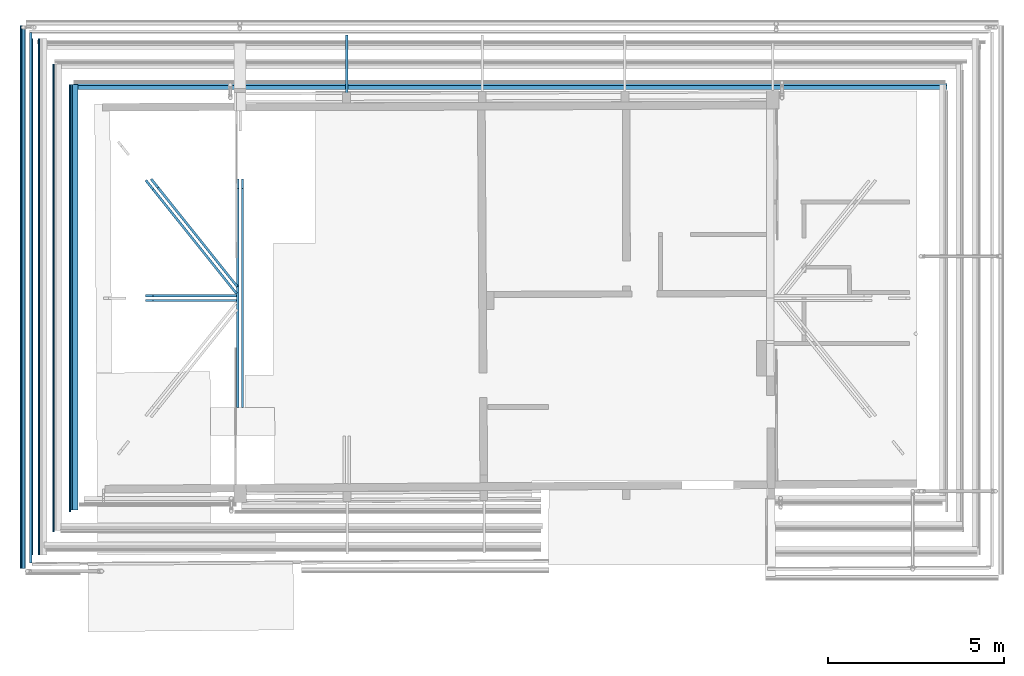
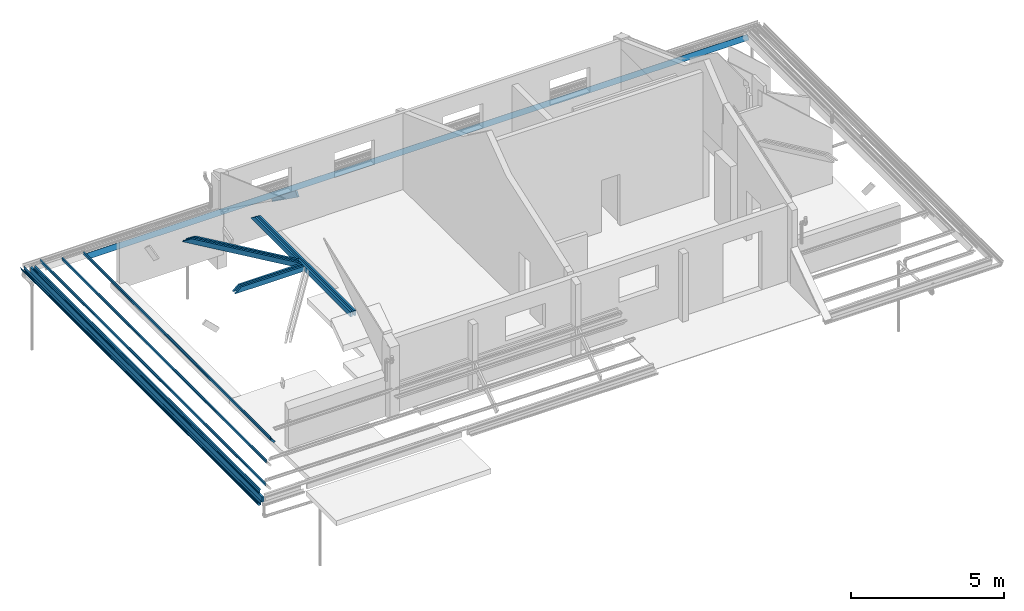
# One storey, part 3 of 15: 15 beams.
"""IFC2X3 building model written with IfcOpenShell, lengths in centimetres."""

import ifcopenshell
import ifcopenshell.guid

model = None  # the IFC model being written
_history = None  # IfcOwnerHistory: only IFC2X3 demands one
_inside = {}  # id of a spatial element -> (the spatial element, [elements in it])
_under = {}  # id of a project, library or spatial element -> (it, [spatial elements below it])
_declared = {}  # id of a project -> (the project, [libraries it declares])
_typed = {}  # id of a type object -> (the type object, [elements of that type])
_made_of = {}  # id of a material, layer set ... -> (it, [elements and type objects made of it])


def new_model(schema):
    """Start an empty IFC model of exactly this schema.

    Asked for "IFC4X3", IfcOpenShell would pick the latest addendum, in which some entities
    have other attributes; the version numbers below select the first issue.
    IFC2X3 requires an IfcOwnerHistory on every rooted entity: one is made here for all.
    """
    global model, _history
    if schema == "IFC4X3":
        model = ifcopenshell.file(schema_version=(4, 3, 0, 0))
    else:
        model = ifcopenshell.file(schema=schema)
    _inside.clear()
    _under.clear()
    _declared.clear()
    _typed.clear()
    _made_of.clear()
    _history = None
    if model.schema == "IFC2X3":
        org = make("IfcOrganization", Name="unknown")
        user = make(
            "IfcPersonAndOrganization",
            ThePerson=make("IfcPerson", FamilyName="unknown"),
            TheOrganization=org,
        )
        app = make(
            "IfcApplication",
            ApplicationDeveloper=org,
            Version="unknown",
            ApplicationFullName="unknown",
            ApplicationIdentifier="unknown",
        )
        _history = make(
            "IfcOwnerHistory",
            OwningUser=user,
            OwningApplication=app,
            ChangeAction="ADDED",
            CreationDate=0,
        )
    return model


def make(cls, **values):
    """One entity of the class cls with the attributes given. An attribute that is None is left unset."""
    return model.create_entity(
        cls, **{name: value for name, value in values.items() if value is not None}
    )


def entity(cls, *values):
    """Any entity or typed value of the class cls, its attributes in the order of the schema. None: left unset."""
    e = model.create_entity(cls)
    for i, value in enumerate(values):
        if value is not None:
            e[i] = value
    return e


def rooted(cls, **values):
    """An entity with a GlobalId (a new one), such as an element, a storey or a relation."""
    return make(cls, GlobalId=ifcopenshell.guid.new(), OwnerHistory=_history, **values)


def si_unit(unit_type, name, prefix=None):
    """IfcSIUnit, for example si_unit("LENGTHUNIT", "METRE", prefix="MILLI")."""
    return make("IfcSIUnit", UnitType=unit_type, Prefix=prefix, Name=name)


def converted_unit(unit_type, name, factor, base, dimensions=None, offset=None):
    """IfcConversionBasedUnit, such as the inch: factor (a typed value) times the base unit."""
    return make(
        "IfcConversionBasedUnit"
        if offset is None
        else "IfcConversionBasedUnitWithOffset",
        ConversionOffset=offset,
        Dimensions=None
        if dimensions is None
        else entity("IfcDimensionalExponents", *dimensions),
        UnitType=unit_type,
        Name=name,
        ConversionFactor=make(
            "IfcMeasureWithUnit", ValueComponent=factor, UnitComponent=base
        ),
    )


def assignment(units):
    """IfcUnitAssignment: the units of a project."""
    return None if units is None else make("IfcUnitAssignment", Units=units)


def point(xyz):
    """IfcCartesianPoint."""
    return None if xyz is None else make("IfcCartesianPoint", Coordinates=xyz)


def direction(xyz):
    """IfcDirection."""
    return None if xyz is None else make("IfcDirection", DirectionRatios=xyz)


def frame(location, z_axis=None, x_axis=None):
    """IfcAxis2Placement3D, a coordinate frame: its origin and axes. An axis left out is left unset."""
    return make(
        "IfcAxis2Placement3D",
        Location=point(location),
        Axis=direction(z_axis),
        RefDirection=direction(x_axis),
    )


def frame_2d(location, x_axis=None):
    """IfcAxis2Placement2D, a coordinate frame in the plane: its origin and x axis."""
    return make(
        "IfcAxis2Placement2D", Location=point(location), RefDirection=direction(x_axis)
    )


def origin():
    """The frame at (0, 0, 0) with its axes left unset."""
    return frame((0.0, 0.0, 0.0))


def origin_2d_with_axis():
    """The frame at (0, 0) in the plane with the x axis (1, 0) written out."""
    return frame_2d((0.0, 0.0), x_axis=(1.0, 0.0))


def place(relative_to, where):
    """IfcLocalPlacement: puts the frame where relative to a parent placement (None: the world)."""
    return make(
        "IfcLocalPlacement", PlacementRelTo=relative_to, RelativePlacement=where
    )


def context(
    kind, dimensions, precision=None, world=None, true_north=None, identifier=None
):
    """IfcGeometricRepresentationContext, for example the 3D "Model" context."""
    return make(
        "IfcGeometricRepresentationContext",
        ContextIdentifier=identifier,
        ContextType=kind,
        CoordinateSpaceDimension=dimensions,
        Precision=precision,
        WorldCoordinateSystem=world,
        TrueNorth=true_north,
    )


def subcontext(parent, identifier, kind, view, scale=None):
    """IfcGeometricRepresentationSubContext, for example "Body" below "Model"."""
    return make(
        "IfcGeometricRepresentationSubContext",
        ContextIdentifier=identifier,
        ContextType=kind,
        ParentContext=parent,
        TargetScale=scale,
        TargetView=view,
    )


def project(units=None, contexts=None):
    """IfcProject with its units and contexts."""
    return rooted(
        "IfcProject",
        Name="project",
        RepresentationContexts=contexts,
        UnitsInContext=assignment(units),
    )


def spatial(cls, under=None, at=None, **own):
    """A site, building, storey or space (cls), placed at a placement, below another one or the project."""
    s = rooted(cls, ObjectPlacement=at, **own)
    if under is not None:
        _under.setdefault(under.id(), (under, []))[1].append(s)
    return s


def polyline(points):
    """IfcPolyline through the points."""
    return make("IfcPolyline", Points=[point(p) for p in points])


def circle_curve(where, radius):
    """IfcCircle in the frame where."""
    return make("IfcCircle", Position=where, Radius=radius)


def parameter(value):
    """IfcParameterValue: where a trimmed curve begins or ends, as a parameter of its basis curve."""
    return model.create_entity("IfcParameterValue", value)


def trimmed(basis, trim1, trim2, sense, master):
    """IfcTrimmedCurve: the piece of a basis curve between two trims."""
    return make(
        "IfcTrimmedCurve",
        BasisCurve=basis,
        Trim1=trim1,
        Trim2=trim2,
        SenseAgreement=sense,
        MasterRepresentation=master,
    )


def segment(curve, same_sense, transition):
    """IfcCompositeCurveSegment."""
    return make(
        "IfcCompositeCurveSegment",
        Transition=transition,
        SameSense=same_sense,
        ParentCurve=curve,
    )


def composite_curve(segments, self_intersect=None):
    """IfcCompositeCurve: segments joined end to end."""
    return make("IfcCompositeCurve", Segments=segments, SelfIntersect=self_intersect)


def profile(cls, at=None, kind="AREA", **sizes):
    """A parametric profile (cls). Its sizes go by their IFC names, for example OverallWidth=200.0."""
    return make(cls, ProfileType=kind, Position=at, **sizes)


def rectangle(**sizes):
    """IfcRectangleProfileDef."""
    return profile("IfcRectangleProfileDef", **sizes)


def outline(outer, holes=None, kind="AREA"):
    """IfcArbitraryClosedProfileDef: a profile drawn as a closed curve; with holes, ...WithVoids."""
    if holes is None:
        return make("IfcArbitraryClosedProfileDef", ProfileType=kind, OuterCurve=outer)
    return make(
        "IfcArbitraryProfileDefWithVoids",
        ProfileType=kind,
        OuterCurve=outer,
        InnerCurves=holes,
    )


def extrude(swept, where, along, depth):
    """IfcExtrudedAreaSolid: the profile swept, set in the frame where, extruded along a direction by depth."""
    return make(
        "IfcExtrudedAreaSolid",
        SweptArea=swept,
        Position=where,
        ExtrudedDirection=direction(along),
        Depth=depth,
    )


def clip(a, b, op="DIFFERENCE"):
    """IfcBooleanClippingResult: the solid a cut by the half space b."""
    return make(
        "IfcBooleanClippingResult", Operator=op, FirstOperand=a, SecondOperand=b
    )


def halfspace(plane, agree):
    """IfcHalfSpaceSolid: all space on one side of the plane z = 0 of the frame plane."""
    return make(
        "IfcHalfSpaceSolid",
        BaseSurface=make("IfcPlane", Position=plane),
        AgreementFlag=agree,
    )


def shape(context_of_items, identifier, shape_type, items):
    """IfcShapeRepresentation: the items that make up one representation, for example the "Body"."""
    return make(
        "IfcShapeRepresentation",
        ContextOfItems=context_of_items,
        RepresentationIdentifier=identifier,
        RepresentationType=shape_type,
        Items=items,
    )


def material(Name=None, Category=None):
    """IfcMaterial."""
    return make("IfcMaterial", Name=Name, Category=Category)


def made_of(thing, what):
    """Note that an element or type object is made of a material, layer set ...; save() writes the relation."""
    if what is not None:
        _made_of.setdefault(what.id(), (what, []))[1].append(thing)
    return thing


def type_object(cls, material=None, **own):
    """A type object (cls), such as IfcWallType, which elements share."""
    return made_of(rooted(cls, **own), material)


def element(
    cls,
    number,
    at=None,
    inside=None,
    cuts=None,
    type_object=None,
    material=None,
    context=None,
    identifier="Body",
    shape_type=None,
    held_by="IfcProductDefinitionShape",
    body=None,
    shapes=None,
    **own,
):
    """One element of the class cls, such as IfcWall. Its Tag is "e" and its number.

    at: its placement. inside: the storey or other place that contains it. cuts: it is an
    opening in that element (IfcRelVoidsElement). A single representation is given by context,
    identifier, shape_type and body (its items); several are given by shapes. held_by: the class
    of the entity that holds the representations. save() writes the other relations.
    """
    e = rooted(cls, Tag="e%d" % number, ObjectPlacement=at, **own)
    if body is not None:
        shapes = [shape(context, identifier, shape_type, body)]
    if shapes is not None:
        e.Representation = make(held_by, Representations=shapes)
    if inside is not None:
        _inside.setdefault(inside.id(), (inside, []))[1].append(e)
    if cuts is not None:
        rooted(
            "IfcRelVoidsElement", RelatingBuildingElement=cuts, RelatedOpeningElement=e
        )
    if type_object is not None:
        _typed.setdefault(type_object.id(), (type_object, []))[1].append(e)
    return made_of(e, material)


def aggregate(whole, parts):
    """IfcRelAggregates: a whole, such as a stair, and the parts it consists of."""
    return rooted("IfcRelAggregates", RelatingObject=whole, RelatedObjects=parts)


def save(model, path):
    """Write the relations noted so far, then the file.

    IfcRelAggregates (storeys below a building ...), IfcRelContainedInSpatialStructure (elements
    in a storey), IfcRelDefinesByType, IfcRelAssociatesMaterial and IfcRelDeclares: one each for
    every whole, place, type object, material and project.
    """
    for whole, parts in _under.values():
        aggregate(whole, parts)
    for where, things in _inside.values():
        rooted(
            "IfcRelContainedInSpatialStructure",
            RelatedElements=things,
            RelatingStructure=where,
        )
    for kind, things in _typed.values():
        rooted("IfcRelDefinesByType", RelatedObjects=things, RelatingType=kind)
    for what, things in _made_of.values():
        rooted("IfcRelAssociatesMaterial", RelatedObjects=things, RelatingMaterial=what)
    for by, libraries in _declared.values():
        rooted("IfcRelDeclares", RelatingContext=by, RelatedDefinitions=libraries)
    model.write(path)


model = new_model("IFC2X3")

# Units and contexts
model_context = context("Model", 3, precision=0.001, world=frame((0.0, 0.0, 13090.0)), true_north=direction((6.123233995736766e-17, 1.0)))
body_context = subcontext(model_context, "Body", "Model", "MODEL_VIEW")
ifc_project = project(units=[si_unit("LENGTHUNIT", "METRE", prefix="CENTI"), si_unit("AREAUNIT", "SQUARE_METRE"), si_unit("VOLUMEUNIT", "CUBIC_METRE"), converted_unit("PLANEANGLEUNIT", "DEGREE", entity("IfcPlaneAngleMeasure", 0.017453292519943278), si_unit("PLANEANGLEUNIT", "RADIAN"), dimensions=[0, 0, 0, 0, 0, 0, 0])], contexts=[model_context])

# Site, building, storey
site_placement = place(None, origin())
site = spatial("IfcSite", under=ifc_project, at=site_placement, Name="Default", CompositionType="ELEMENT")
building_placement = place(site_placement, origin())
building = spatial("IfcBuilding", under=site, at=building_placement, Name="e 39 logements et 22 maisons relais", CompositionType="ELEMENT")
storey_placement = place(building_placement, frame((0.0, 0.0, 340.0)))
storey = spatial("IfcBuildingStorey", under=building, at=storey_placement, Name="R+1", CompositionType="ELEMENT", Elevation=339.99999999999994)

# Beams
ifc_material_1 = material(Name="Bois - Bois de construction de dimensions courantes")
beam_type_1 = type_object("IfcBeamType", Name="Poutre - Bois de construction de dimensions courantes:70 220", PredefinedType="BEAM")
beam_1_placement = place(storey_placement, frame((-1391.5363790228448, 514.0076677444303, 101.09909632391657), z_axis=(0.0, 0.0, 1.0), x_axis=(0.0, -1.0, 0.0)))
element("IfcBeam", 1, at=beam_1_placement, inside=storey, type_object=beam_type_1, material=ifc_material_1, Name="Poutre - Bois de construction de dimensions courantes:70 220", ObjectType="Poutre - Bois de construction de dimensions courantes:70 220", context=body_context, shape_type="SweptSolid", body=[
    extrude(rectangle(XDim=21.99999999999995, YDim=7.000000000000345, at=frame_2d((-2.042810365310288e-14, 1.8207657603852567e-14), x_axis=(1.0, 0.0))), frame((-70.66046009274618, 7.360436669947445, -8.174593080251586), z_axis=(1.0, 0.0, 0.0), x_axis=(0.0, -0.6691306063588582, 0.7431448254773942)), (0.0, 0.0, 1.0), 1211.2816358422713),
])
beam_2_placement = place(storey_placement, frame((-1508.2353896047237, 514.0076677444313, 16.985725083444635), z_axis=(0.0, 0.0, 1.0), x_axis=(0.0, -1.0, 0.0)))
element("IfcBeam", 2, at=beam_2_placement, inside=storey, type_object=beam_type_1, material=ifc_material_1, Name="Poutre - Bois de construction de dimensions courantes:70 220", ObjectType="Poutre - Bois de construction de dimensions courantes:70 220", context=body_context, shape_type="SweptSolid", body=[
    extrude(rectangle(XDim=21.99999999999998, YDim=7.000000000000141, at=origin_2d_with_axis()), frame((-218.6176065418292, 0.0, -23.0), z_axis=(1.0, 0.0, 0.0), x_axis=(0.0, 0.0, -1.0)), (0.0, 0.0, 1.0), 1509.8727410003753),
])
beam_3_placement = place(storey_placement, frame((-609.2819705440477, 773.585191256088, 29.76606766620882), z_axis=(0.0, 0.5804591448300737, 0.8142893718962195), x_axis=(0.0, -0.8142893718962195, 0.5804591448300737)))
element("IfcBeam", 3, at=beam_3_placement, inside=storey, type_object=beam_type_1, material=ifc_material_1, Name="Poutre - Bois de construction de dimensions courantes:70 220", ObjectType="Poutre - Bois de construction de dimensions courantes:70 220", context=body_context, shape_type="SweptSolid", body=[
    extrude(rectangle(XDim=22.00000000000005, YDim=7.000000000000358, at=frame_2d((-2.3092638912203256e-14, -5.417888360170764e-14), x_axis=(1.0, 0.0))), frame((10.090585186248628, 0.0, -80.0), z_axis=(1.0, 0.0, 0.0), x_axis=(0.0, 0.0, -1.0)), (0.0, 0.0, 1.0), 201.65636044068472),
])
beam_type_2 = type_object("IfcBeamType", Name="Poutre - Bois de construction de dimensions courantes:70 200", PredefinedType="BEAM")
beam_4_placement = place(storey_placement, frame((-905.529474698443, 77.11354386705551, 266.32572503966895), z_axis=(0.0, 0.0, 1.0), x_axis=(0.0, 1.0, 0.0)))
element("IfcBeam", 4, at=beam_4_placement, inside=storey, type_object=beam_type_2, material=ifc_material_1, Name="Poutre - Bois de construction de dimensions courantes:70 200", ObjectType="Poutre - Bois de construction de dimensions courantes:70 200", context=body_context, shape_type="Clipping", body=[
    clip(extrude(rectangle(XDim=20.000000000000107, YDim=7.000000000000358, at=frame_2d((-1.0835776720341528e-13, -1.0835776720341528e-13), x_axis=(1.0, 0.0))), frame((-411.24384908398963, 0.0, -10.0), z_axis=(1.0, 0.0, 0.0), x_axis=(0.0, 0.0, -1.0)), (0.0, 0.0, 1.0), 650.4319269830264), halfspace(frame((149.0404736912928, -723.1623529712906, 44.36816788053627), z_axis=(0.5811008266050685, 0.0, 0.813831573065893), x_axis=(0.0, 1.0, 0.0)), False)),
])
beam_5_placement = place(storey_placement, frame((-919.5294746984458, 77.11354386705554, 266.32572503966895), z_axis=(0.0, 0.0, 1.0), x_axis=(0.0, 1.0, 0.0)))
element("IfcBeam", 5, at=beam_5_placement, inside=storey, type_object=beam_type_2, material=ifc_material_1, Name="Poutre - Bois de construction de dimensions courantes:70 200", ObjectType="Poutre - Bois de construction de dimensions courantes:70 200", context=body_context, shape_type="Clipping", body=[
    clip(extrude(rectangle(XDim=20.00000000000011, YDim=7.000000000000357, at=frame_2d((0.0, 1.0835776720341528e-13), x_axis=(1.0, 0.0))), frame((-411.2438490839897, 0.0, -10.0), z_axis=(1.0, 0.0, 0.0), x_axis=(0.0, 0.0, -1.0)), (0.0, 0.0, 1.0), 650.4319269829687), halfspace(frame((149.0404736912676, -723.1623529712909, 44.368167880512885), z_axis=(0.5811008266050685, 0.0, 0.8138315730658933), x_axis=(0.0, 1.0, 0.0)), False)),
])
beam_6_placement = place(storey_placement, frame((-1012.5409217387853, -15.897903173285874, 266.32572503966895), z_axis=(0.0, 0.0, 1.0), x_axis=(-1.0, 0.0, 0.0)))
element("IfcBeam", 6, at=beam_6_placement, inside=storey, type_object=beam_type_2, material=ifc_material_1, Name="Poutre - Bois de construction de dimensions courantes:70 200", ObjectType="Poutre - Bois de construction de dimensions courantes:70 200", context=body_context, shape_type="Clipping", body=[
    clip(extrude(rectangle(XDim=20.000000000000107, YDim=7.000000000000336, at=frame_2d((-1.0835776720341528e-13, -8.881784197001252e-16), x_axis=(1.0, 0.0))), frame((-89.5114470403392, 0.0, -10.0), z_axis=(1.0, 0.0, 0.0), x_axis=(0.0, 0.0, -1.0)), (0.0, 0.0, 1.0), 258.8899287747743), halfspace(frame((212.18040043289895, 311.0114470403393, -58.487575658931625), z_axis=(0.6686368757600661, 0.0, 0.7435890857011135), x_axis=(0.0, -1.0, 0.0)), False)),
])
beam_7_placement = place(storey_placement, frame((-1012.5409217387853, -29.89790317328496, 266.32572503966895), z_axis=(0.0, 0.0, 1.0), x_axis=(-1.0, 0.0, 0.0)))
element("IfcBeam", 7, at=beam_7_placement, inside=storey, type_object=beam_type_2, material=ifc_material_1, Name="Poutre - Bois de construction de dimensions courantes:70 200", ObjectType="Poutre - Bois de construction de dimensions courantes:70 200", context=body_context, shape_type="Clipping", body=[
    clip(extrude(rectangle(XDim=20.000000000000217, YDim=7.000000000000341, at=frame_2d((0.0, -1.7763568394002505e-15), x_axis=(1.0, 0.0))), frame((-89.51144704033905, 0.0, -10.0), z_axis=(1.0, 0.0, 0.0), x_axis=(0.0, 0.0, -1.0)), (0.0, 0.0, 1.0), 258.8899287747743), halfspace(frame((212.18040043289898, 311.0114470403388, -58.487575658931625), z_axis=(0.6686368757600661, 0.0, 0.7435890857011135), x_axis=(0.0, -1.0, 0.0)), False)),
])
beam_8_placement = place(storey_placement, frame((-972.4380074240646, 74.55343933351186, 266.32572503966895), z_axis=(0.0, 0.0, 1.0), x_axis=(-0.624840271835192, 0.780752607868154, 0.0)))
element("IfcBeam", 8, at=beam_8_placement, inside=storey, type_object=beam_type_2, material=ifc_material_1, Name="Poutre - Bois de construction de dimensions courantes:70 200", ObjectType="Poutre - Bois de construction de dimensions courantes:70 200", context=body_context, shape_type="Clipping", body=[
    clip(extrude(rectangle(XDim=20.0, YDim=7.000000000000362, at=frame_2d((-1.709743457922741e-14, 0.0), x_axis=(0.0, 1.0))), frame((-83.4925208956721, 0.0, -10.0), z_axis=(1.0, 0.0, 0.0), x_axis=(0.0, 1.0, 0.0)), (0.0, 0.0, 1.0), 392.55819188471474), halfspace(frame((221.0074781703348, -392.55819188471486, 31.60814003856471), z_axis=(0.4869245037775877, 0.0, 0.8734440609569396), x_axis=(0.0, 1.0, 0.0)), False)),
])
beam_9_placement = place(storey_placement, frame((-983.3685439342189, 65.80567552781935, 266.32572503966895), z_axis=(0.0, 0.0, 1.0), x_axis=(-0.6248402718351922, 0.7807526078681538, 0.0)))
element("IfcBeam", 9, at=beam_9_placement, inside=storey, type_object=beam_type_2, material=ifc_material_1, Name="Poutre - Bois de construction de dimensions courantes:70 200", ObjectType="Poutre - Bois de construction de dimensions courantes:70 200", context=body_context, shape_type="Clipping", body=[
    clip(extrude(rectangle(XDim=20.0, YDim=7.000000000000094, at=frame_2d((-1.1102230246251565e-15, 5.417888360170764e-14), x_axis=(0.0, 1.0))), frame((-97.31685809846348, 0.0, -10.0), z_axis=(1.0, 0.0, 0.0), x_axis=(0.0, 1.0, 0.0)), (0.0, 0.0, 1.0), 413.0179422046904), halfspace(frame((221.00747817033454, -413.0179422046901, 34.896910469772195), z_axis=(0.49070508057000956, 0.0, 0.8713257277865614), x_axis=(0.0, 1.0, 0.0)), False)),
])
beam_10_placement = place(storey_placement, frame((-570.9302602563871, 584.7263985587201, 105.5), z_axis=(-0.0005326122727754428, 0.0, 0.9999998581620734), x_axis=(-0.9999998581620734, 0.0, -0.0005326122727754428)))
element("IfcBeam", 10, at=beam_10_placement, inside=storey, type_object=beam_type_2, material=ifc_material_1, Name="Poutre - Bois de construction de dimensions courantes:70 200", ObjectType="Poutre - Bois de construction de dimensions courantes:70 200", context=body_context, shape_type="SweptSolid", body=[
    extrude(rectangle(XDim=19.999999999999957, YDim=7.00000000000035, at=frame_2d((3.9968028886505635e-14, 1.0436096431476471e-13), x_axis=(1.0, 0.0))), frame((-1670.4730128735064, 6.022552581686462, -8.601096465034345), z_axis=(1.0, 0.0, 0.0), x_axis=(0.0, -0.5735764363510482, 0.8191520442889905)), (0.0, 0.0, 1.0), 2485.540627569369),
])
ifc_material_2 = material(Name="neuf")
beam_type_3 = type_object("IfcBeamType", Name="gouttiere ALU G400:gouttiere ALU G400", PredefinedType="BEAM")
beam_11_placement = place(storey_placement, frame((-1523.2352985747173, 514.007667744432, 21.04008114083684), z_axis=(0.0, 0.0, 1.0), x_axis=(0.0, -1.0, 0.0)))
element("IfcBeam", 11, at=beam_11_placement, inside=storey, type_object=beam_type_3, material=ifc_material_2, Name="gouttiere ALU G400:gouttiere ALU G400", ObjectType="gouttiere ALU G400:gouttiere ALU G400", context=body_context, shape_type="SweptSolid", body=[
    extrude(outline(composite_curve([segment(polyline([(-4.596964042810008, -5.18363800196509), (-4.410064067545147, -5.18363800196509)]), True, "CONTINUOUS"), segment(trimmed(circle_curve(frame_2d((-4.410064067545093, -4.392159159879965), x_axis=(0.0, -1.0)), 0.7914788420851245), [parameter(0.0)], [parameter(90.00000000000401)], True, "PARAMETER"), True, "CONTINUOUS"), segment(polyline([(-3.6185852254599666, -4.392159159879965), (-3.6185852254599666, -3.6330360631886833)]), True, "CONTINUOUS"), segment(trimmed(circle_curve(frame_2d((-2.8287143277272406, -3.6330360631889), x_axis=(-1.0, 0.0)), 0.789870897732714), [parameter(284.61974875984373)], [parameter(0.0)], True, "PARAMETER"), False, "CONTINUOUS"), segment(polyline([(-3.0280800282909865, -2.868739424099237), (3.0018920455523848, -1.9250957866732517)]), True, "CONTINUOUS"), segment(trimmed(circle_curve(frame_2d((2.6511667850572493, -0.5488704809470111), x_axis=(0.24695261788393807, -0.9690275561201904)), 1.420212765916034), [parameter(0.0)], [parameter(75.70274320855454)], True, "PARAMETER"), True, "CONTINUOUS"), segment(trimmed(circle_curve(frame_2d((4.738394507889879, -0.5488704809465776), x_axis=(-1.0, 0.0)), 0.6670149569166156), [parameter(270.00000000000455)], [parameter(0.0)], True, "PARAMETER"), False, "CONTINUOUS"), segment(polyline([(4.738394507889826, 0.11814447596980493), (5.823944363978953, 0.11814447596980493)]), True, "CONTINUOUS"), segment(trimmed(circle_curve(frame_2d((5.6045317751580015, 1.4672111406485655), x_axis=(0.16053097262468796, -0.9870308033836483)), 1.3667928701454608), [parameter(0.0)], [parameter(80.76228289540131)], True, "PARAMETER"), True, "CONTINUOUS"), segment(polyline([(6.9713246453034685, 1.4672111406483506), (6.971324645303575, 7.967211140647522)]), True, "CONTINUOUS"), segment(trimmed(circle_curve(frame_2d((4.482502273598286, 7.967211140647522), x_axis=(1.0, 0.0)), 2.4888223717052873), [parameter(0.0)], [parameter(79.98963375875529)], True, "PARAMETER"), True, "CONTINUOUS"), segment(polyline([(4.9151251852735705, 10.418144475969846), (-6.028675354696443, 10.418144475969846)]), True, "CONTINUOUS"), segment(polyline([(-6.028675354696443, 10.418144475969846), (-6.028675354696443, 10.218144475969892)]), True, "CONTINUOUS"), segment(polyline([(-6.028675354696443, 10.218144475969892), (4.897239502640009, 10.218144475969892)]), True, "CONTINUOUS"), segment(trimmed(circle_curve(frame_2d((4.482502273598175, 7.967211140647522), x_axis=(0.18120114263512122, 0.9834460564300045)), 2.288822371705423), [parameter(280.4397307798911)], [parameter(0.0)], True, "PARAMETER"), False, "CONTINUOUS"), segment(polyline([(6.771324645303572, 7.967211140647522), (6.771324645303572, 1.4672111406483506)]), True, "CONTINUOUS"), segment(trimmed(circle_curve(frame_2d((5.604531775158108, 1.4672111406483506), x_axis=(1.0, 0.0)), 1.1667928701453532), [parameter(279.9999999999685)], [parameter(0.0)], True, "PARAMETER"), False, "CONTINUOUS"), segment(polyline([(5.807143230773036, 0.3181444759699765), (4.738394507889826, 0.3181444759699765)]), True, "CONTINUOUS"), segment(trimmed(circle_curve(frame_2d((4.738394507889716, -0.5488704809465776), x_axis=(0.0, 1.0)), 0.8670149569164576), [parameter(0.0)], [parameter(90.00000000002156)], True, "PARAMETER"), True, "CONTINUOUS"), segment(trimmed(circle_curve(frame_2d((2.651166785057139, -0.5488704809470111), x_axis=(1.0, 0.0)), 1.2202127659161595), [parameter(284.72375106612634)], [parameter(0.0)], True, "PARAMETER"), False, "CONTINUOUS"), segment(polyline([(2.96129470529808, -1.729014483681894), (-3.068480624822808, -2.6724390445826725)]), True, "CONTINUOUS"), segment(trimmed(circle_curve(frame_2d((-2.8289568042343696, -3.633116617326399), x_axis=(-0.2419218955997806, 0.9702957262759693)), 0.990087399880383), [parameter(0.0)], [parameter(76.000000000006)], True, "PARAMETER"), True, "CONTINUOUS"), segment(polyline([(-3.81904420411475, -3.633116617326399), (-3.81904420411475, -4.391273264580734)]), True, "CONTINUOUS"), segment(trimmed(circle_curve(frame_2d((-4.409626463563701, -4.391273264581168), x_axis=(1.0, 0.0)), 0.5905822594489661), [parameter(269.99999999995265)], [parameter(0.0)], True, "PARAMETER"), False, "CONTINUOUS"), segment(polyline([(-4.409626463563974, -4.981855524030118), (-4.596293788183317, -4.981855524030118)]), True, "CONTINUOUS"), segment(trimmed(circle_curve(frame_2d((-4.596293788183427, -4.451936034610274), x_axis=(0.0, -1.0)), 0.529919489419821), [parameter(269.99999999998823)], [parameter(0.0)], True, "PARAMETER"), False, "CONTINUOUS"), segment(polyline([(-5.126213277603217, -4.451936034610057), (-5.3086335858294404, -2.716322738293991)]), True, "CONTINUOUS"), segment(polyline([(-5.308633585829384, -2.716322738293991), (-5.509735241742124, -2.716322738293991)]), True, "CONTINUOUS"), segment(polyline([(-5.509735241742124, -2.716322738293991), (-5.324785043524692, -4.4558170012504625)]), True, "CONTINUOUS"), segment(trimmed(circle_curve(frame_2d((-4.596964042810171, -4.455817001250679), x_axis=(-1.0, 0.0)), 0.727821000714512), [parameter(0.0)], [parameter(90.00000000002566)], True, "PARAMETER"), True, "CONTINUOUS")], self_intersect=False)), frame((-238.9176065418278, -10.218144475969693, -27.028675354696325), z_axis=(1.0, 0.0, 0.0), x_axis=(0.0, 0.0, -1.0)), (0.0, 0.0, 1.0), 1544.9932858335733),
])
beam_type_4 = type_object("IfcBeamType", Name="panne z:panne z", PredefinedType="BEAM")
beam_12_placement = place(storey_placement, frame((-1496.6315032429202, 514.0076677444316, 45.440349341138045), z_axis=(0.0, 0.0, 1.0), x_axis=(0.0, -1.0, 0.0)))
element("IfcBeam", 12, at=beam_12_placement, inside=storey, type_object=beam_type_4, material=ifc_material_2, Name="panne z:panne z", ObjectType="panne z:panne z", context=body_context, shape_type="SweptSolid", body=[
    extrude(outline(composite_curve([segment(trimmed(circle_curve(frame_2d((4.599999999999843, 2.6000000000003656), x_axis=(1.0, 0.0)), 0.3999999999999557), [parameter(0.0)], [parameter(90.00000000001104)], True, "PARAMETER"), True, "CONTINUOUS"), segment(polyline([(4.599999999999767, 3.0), (0.2999999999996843, 3.0)]), True, "CONTINUOUS"), segment(trimmed(circle_curve(frame_2d((0.2999999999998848, 2.5999999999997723), x_axis=(0.0, 1.0)), 0.4000000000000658), [parameter(0.0)], [parameter(89.99999999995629)], True, "PARAMETER"), True, "CONTINUOUS"), segment(polyline([(-0.10000000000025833, 2.5999999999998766), (-0.0999999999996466, -2.6000000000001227)]), True, "CONTINUOUS"), segment(trimmed(circle_curve(frame_2d((-0.29999999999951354, -2.6000000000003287), x_axis=(1.0, 0.0)), 0.19999999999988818), [parameter(269.9999999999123)], [parameter(0.0)], True, "PARAMETER"), False, "CONTINUOUS"), segment(polyline([(-0.299999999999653, -2.8000000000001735), (-4.599999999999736, -2.8000000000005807)]), True, "CONTINUOUS"), segment(trimmed(circle_curve(frame_2d((-4.599999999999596, -2.6000000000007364), x_axis=(0.0, -1.0)), 0.2000000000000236), [parameter(270.0000000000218)], [parameter(0.0)], True, "PARAMETER"), False, "CONTINUOUS"), segment(polyline([(-4.799999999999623, -2.6000000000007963), (-4.799999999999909, -1.0)]), True, "CONTINUOUS"), segment(polyline([(-4.7999999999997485, -1.0), (-5.0, -1.0)]), True, "CONTINUOUS"), segment(polyline([(-5.0, -1.0), (-5.0, -2.600000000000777)]), True, "CONTINUOUS"), segment(trimmed(circle_curve(frame_2d((-4.5999999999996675, -2.600000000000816), x_axis=(-1.0, 0.0)), 0.3999999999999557), [parameter(0.0)], [parameter(90.00000000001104)], True, "PARAMETER"), True, "CONTINUOUS"), segment(polyline([(-4.599999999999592, -3.0), (-0.2999999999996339, -3.0)]), True, "CONTINUOUS"), segment(trimmed(circle_curve(frame_2d((-0.2999999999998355, -2.6000000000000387), x_axis=(0.0, -1.0)), 0.4000000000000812), [parameter(0.0)], [parameter(89.99999999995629)], True, "PARAMETER"), True, "CONTINUOUS"), segment(polyline([(0.10000000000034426, -2.6000000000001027), (0.0999999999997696, 2.599999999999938)]), True, "CONTINUOUS"), segment(trimmed(circle_curve(frame_2d((0.2999999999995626, 2.600000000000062), x_axis=(-1.0, 0.0)), 0.19999999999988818), [parameter(269.9999999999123)], [parameter(0.0)], True, "PARAMETER"), False, "CONTINUOUS"), segment(polyline([(0.2999999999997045, 2.7999999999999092), (4.599999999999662, 2.8000000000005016)]), True, "CONTINUOUS"), segment(trimmed(circle_curve(frame_2d((4.5999999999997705, 2.6000000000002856), x_axis=(0.0, 1.0)), 0.2000000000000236), [parameter(270.0000000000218)], [parameter(0.0)], True, "PARAMETER"), False, "CONTINUOUS"), segment(polyline([(4.799999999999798, 2.6000000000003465), (4.799999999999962, 1.0)]), True, "CONTINUOUS"), segment(polyline([(4.799999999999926, 1.0), (5.0, 1.0)]), True, "CONTINUOUS"), segment(polyline([(5.0, 1.0), (5.0, 2.600000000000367)]), True, "CONTINUOUS")], self_intersect=False)), frame((-201.23187707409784, 12.5009882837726, -13.883754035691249), z_axis=(1.0, 0.0, 0.0), x_axis=(0.0, 0.7431448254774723, 0.6691306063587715)), (0.0, 0.0, 1.0), 1469.0764847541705),
])
beam_13_placement = place(storey_placement, frame((-1455.573230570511, 514.0076677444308, 82.2310112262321), z_axis=(0.0, 0.0, 1.0), x_axis=(0.0, -1.0, 0.0)))
element("IfcBeam", 13, at=beam_13_placement, inside=storey, type_object=beam_type_4, material=ifc_material_2, Name="panne z:panne z", ObjectType="panne z:panne z", context=body_context, shape_type="SweptSolid", body=[
    extrude(outline(composite_curve([segment(trimmed(circle_curve(frame_2d((4.599999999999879, 2.6000000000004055), x_axis=(1.0, 0.0)), 0.3999999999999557), [parameter(0.0)], [parameter(90.00000000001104)], True, "PARAMETER"), True, "CONTINUOUS"), segment(polyline([(4.599999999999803, 3.0), (0.2999999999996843, 3.0)]), True, "CONTINUOUS"), segment(trimmed(circle_curve(frame_2d((0.29999999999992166, 2.599999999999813), x_axis=(0.0, 1.0)), 0.4000000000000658), [parameter(0.0)], [parameter(89.99999999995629)], True, "PARAMETER"), True, "CONTINUOUS"), segment(polyline([(-0.10000000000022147, 2.5999999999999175), (-0.0999999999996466, -2.6000000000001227)]), True, "CONTINUOUS"), segment(trimmed(circle_curve(frame_2d((-0.2999999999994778, -2.600000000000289), x_axis=(1.0, 0.0)), 0.19999999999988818), [parameter(269.9999999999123)], [parameter(0.0)], True, "PARAMETER"), False, "CONTINUOUS"), segment(polyline([(-0.29999999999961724, -2.800000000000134), (-4.599999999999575, -2.8000000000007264)]), True, "CONTINUOUS"), segment(trimmed(circle_curve(frame_2d((-4.599999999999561, -2.600000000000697), x_axis=(0.0, -1.0)), 0.2000000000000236), [parameter(270.0000000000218)], [parameter(0.0)], True, "PARAMETER"), False, "CONTINUOUS"), segment(polyline([(-4.799999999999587, -2.600000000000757), (-4.7999999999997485, -1.0)]), True, "CONTINUOUS"), segment(polyline([(-4.799999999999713, -1.0), (-5.0, -1.0)]), True, "CONTINUOUS"), segment(polyline([(-5.0, -1.0), (-5.0, -2.600000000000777)]), True, "CONTINUOUS"), segment(trimmed(circle_curve(frame_2d((-4.599999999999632, -2.6000000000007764), x_axis=(-1.0, 0.0)), 0.3999999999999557), [parameter(0.0)], [parameter(90.00000000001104)], True, "PARAMETER"), True, "CONTINUOUS"), segment(polyline([(-4.599999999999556, -3.0), (-0.2999999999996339, -3.0)]), True, "CONTINUOUS"), segment(trimmed(circle_curve(frame_2d((-0.29999999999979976, -2.599999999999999), x_axis=(0.0, -1.0)), 0.4000000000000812), [parameter(0.0)], [parameter(89.99999999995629)], True, "PARAMETER"), True, "CONTINUOUS"), segment(polyline([(0.10000000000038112, -2.6000000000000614), (0.0999999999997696, 2.599999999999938)]), True, "CONTINUOUS"), segment(trimmed(circle_curve(frame_2d((0.2999999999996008, 2.600000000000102), x_axis=(-1.0, 0.0)), 0.19999999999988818), [parameter(269.9999999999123)], [parameter(0.0)], True, "PARAMETER"), False, "CONTINUOUS"), segment(polyline([(0.29999999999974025, 2.799999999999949), (4.599999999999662, 2.8000000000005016)]), True, "CONTINUOUS"), segment(trimmed(circle_curve(frame_2d((4.599999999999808, 2.6000000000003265), x_axis=(0.0, 1.0)), 0.2000000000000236), [parameter(270.0000000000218)], [parameter(0.0)], True, "PARAMETER"), False, "CONTINUOUS"), segment(polyline([(4.799999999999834, 2.600000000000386), (4.79999999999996, 1.0)]), True, "CONTINUOUS"), segment(polyline([(4.79999999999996, 1.0), (5.0, 1.0)]), True, "CONTINUOUS"), segment(polyline([(5.0, 1.0), (5.0, 2.6000000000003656)]), True, "CONTINUOUS")], self_intersect=False)), frame((-129.60742762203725, 12.500988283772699, -13.883754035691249), z_axis=(1.0, 0.0, 0.0), x_axis=(0.0, 0.7431448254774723, 0.6691306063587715)), (0.0, 0.0, 1.0), 1331.727164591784),
])
beam_14_placement = place(storey_placement, frame((-1408.7120225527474, 514.0076677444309, 124.22144938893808), z_axis=(0.0, 0.0, 1.0), x_axis=(0.0, -1.0, 0.0)))
element("IfcBeam", 14, at=beam_14_placement, inside=storey, type_object=beam_type_4, material=ifc_material_2, Name="panne z:panne z", ObjectType="panne z:panne z", context=body_context, shape_type="SweptSolid", body=[
    extrude(outline(composite_curve([segment(trimmed(circle_curve(frame_2d((4.599999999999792, 2.6000000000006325), x_axis=(1.0, 0.0)), 0.3999999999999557), [parameter(0.0)], [parameter(90.00000000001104)], True, "PARAMETER"), True, "CONTINUOUS"), segment(polyline([(4.599999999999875, 3.0), (0.29999999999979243, 3.0)]), True, "CONTINUOUS"), segment(trimmed(circle_curve(frame_2d((0.2999999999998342, 2.6000000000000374), x_axis=(0.0, 1.0)), 0.4000000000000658), [parameter(0.0)], [parameter(89.99999999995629)], True, "PARAMETER"), True, "CONTINUOUS"), segment(polyline([(-0.10000000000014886, 2.599999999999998), (-0.09999999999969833, -2.599999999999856)]), True, "CONTINUOUS"), segment(trimmed(circle_curve(frame_2d((-0.29999999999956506, -2.6000000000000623), x_axis=(1.0, 0.0)), 0.19999999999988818), [parameter(269.9999999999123)], [parameter(0.0)], True, "PARAMETER"), False, "CONTINUOUS"), segment(polyline([(-0.29999999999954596, -2.800000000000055), (-4.599999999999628, -2.8000000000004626)]), True, "CONTINUOUS"), segment(trimmed(circle_curve(frame_2d((-4.599999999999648, -2.6000000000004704), x_axis=(0.0, -1.0)), 0.2000000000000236), [parameter(270.0000000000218)], [parameter(0.0)], True, "PARAMETER"), False, "CONTINUOUS"), segment(polyline([(-4.799999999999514, -2.6000000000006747), (-4.7999999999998, -1.0)]), True, "CONTINUOUS"), segment(polyline([(-4.799999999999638, -1.0), (-5.0, -1.0)]), True, "CONTINUOUS"), segment(polyline([(-5.0, -1.0), (-5.0, -2.600000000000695)]), True, "CONTINUOUS"), segment(trimmed(circle_curve(frame_2d((-4.599999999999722, -2.600000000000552), x_axis=(-1.0, 0.0)), 0.3999999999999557), [parameter(0.0)], [parameter(90.00000000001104)], True, "PARAMETER"), True, "CONTINUOUS"), segment(polyline([(-4.5999999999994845, -3.0), (-0.2999999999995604, -3.0)]), True, "CONTINUOUS"), segment(trimmed(circle_curve(frame_2d((-0.29999999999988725, -2.5999999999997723), x_axis=(0.0, -1.0)), 0.4000000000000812), [parameter(0.0)], [parameter(89.99999999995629)], True, "PARAMETER"), True, "CONTINUOUS"), segment(polyline([(0.1000000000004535, -2.599999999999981), (0.09999999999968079, 2.6000000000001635)]), True, "CONTINUOUS"), segment(trimmed(circle_curve(frame_2d((0.2999999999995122, 2.6000000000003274), x_axis=(-1.0, 0.0)), 0.19999999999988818), [parameter(269.9999999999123)], [parameter(0.0)], True, "PARAMETER"), False, "CONTINUOUS"), segment(polyline([(0.29999999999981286, 2.8000000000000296), (4.599999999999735, 2.8000000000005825)]), True, "CONTINUOUS"), segment(trimmed(circle_curve(frame_2d((4.599999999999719, 2.6000000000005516), x_axis=(0.0, 1.0)), 0.2000000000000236), [parameter(270.0000000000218)], [parameter(0.0)], True, "PARAMETER"), False, "CONTINUOUS"), segment(polyline([(4.799999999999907, 2.600000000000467), (4.800000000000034, 1.0)]), True, "CONTINUOUS"), segment(polyline([(4.800000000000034, 1.0), (5.0, 1.0)]), True, "CONTINUOUS"), segment(polyline([(5.0, 1.0), (5.0, 2.6000000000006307)]), True, "CONTINUOUS")], self_intersect=False)), frame((-71.0176016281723, 12.500988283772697, -13.883754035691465), z_axis=(1.0, 0.0, 0.0), x_axis=(0.0, 0.7431448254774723, 0.6691306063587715)), (0.0, 0.0, 1.0), 1216.7549657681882),
])
beam_type_5 = type_object("IfcBeamType", Name="panne z pente sup 42 deg:panne z pente sup 42 deg", PredefinedType="BEAM")
beam_15_placement = place(storey_placement, frame((-1505.9352985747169, 514.0076677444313, 31.94622571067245), z_axis=(0.0, 0.0, 1.0), x_axis=(0.0, -1.0, 0.0)))
element("IfcBeam", 15, at=beam_15_placement, inside=storey, type_object=beam_type_5, material=ifc_material_2, Name="panne z pente sup 42 deg:panne z pente sup 42 deg", ObjectType="panne z pente sup 42 deg:panne z pente sup 42 deg", context=body_context, shape_type="SweptSolid", body=[
    extrude(outline(composite_curve([segment(polyline([(3.906370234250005, -4.67840023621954), (5.506370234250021, -4.67840023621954)]), True, "CONTINUOUS"), segment(trimmed(circle_curve(frame_2d((5.506370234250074, -4.278400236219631), x_axis=(0.0, -1.0)), 0.39999999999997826), [parameter(0.0)], [parameter(90.00000000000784)], True, "PARAMETER"), True, "CONTINUOUS"), segment(polyline([(5.906370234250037, -4.278400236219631), (5.906370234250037, 0.02159976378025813)]), True, "CONTINUOUS"), segment(trimmed(circle_curve(frame_2d((5.506370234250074, 0.021599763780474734), x_axis=(1.0, 0.0)), 0.3999999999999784), [parameter(0.0)], [parameter(90.00000000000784)], True, "PARAMETER"), True, "CONTINUOUS"), segment(polyline([(5.506370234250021, 0.4215997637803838), (-3.6544383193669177, 0.4215997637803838)]), True, "CONTINUOUS"), segment(trimmed(circle_curve(frame_2d((-3.615142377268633, 0.6336444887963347), x_axis=(-0.1822165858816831, -0.9832584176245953)), 0.2156551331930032), [parameter(324.6609117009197)], [parameter(0.0)], True, "PARAMETER"), False, "CONTINUOUS"), segment(polyline([(-3.769847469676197, 0.4833997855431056), (-6.911329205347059, 3.9723687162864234)]), True, "CONTINUOUS"), segment(trimmed(circle_curve(frame_2d((-6.816814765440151, 4.016447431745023), x_axis=(-0.906286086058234, -0.4226647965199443)), 0.10428764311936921), [parameter(244.99705808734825)], [parameter(0.0)], True, "PARAMETER"), False, "CONTINUOUS"), segment(polyline([(-6.816814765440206, 4.120735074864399), (-5.216814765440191, 4.120735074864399)]), True, "CONTINUOUS"), segment(polyline([(-5.216814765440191, 4.120735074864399), (-5.216814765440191, 4.320735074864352)]), True, "CONTINUOUS"), segment(polyline([(-5.216814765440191, 4.320735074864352), (-6.816814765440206, 4.320735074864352)]), True, "CONTINUOUS"), segment(trimmed(circle_curve(frame_2d((-6.816814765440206, 4.016447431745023), x_axis=(0.0, 1.0)), 0.30428764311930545), [parameter(0.0)], [parameter(122.07346536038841)], True, "PARAMETER"), True, "CONTINUOUS"), segment(polyline([(-7.074658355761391, 3.854868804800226), (-3.916361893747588, 0.34722522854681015)]), True, "CONTINUOUS"), segment(trimmed(circle_curve(frame_2d((-3.6151423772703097, 0.6336444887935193), x_axis=(-0.7246861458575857, -0.6890790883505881)), 0.415655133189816), [parameter(0.0)], [parameter(38.885490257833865)], True, "PARAMETER"), True, "CONTINUOUS"), segment(polyline([(-3.6698080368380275, 0.22159976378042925), (5.506370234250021, 0.22159976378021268)]), True, "CONTINUOUS"), segment(trimmed(circle_curve(frame_2d((5.506370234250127, 0.021599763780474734), x_axis=(0.0, 1.0)), 0.19999999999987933), [parameter(269.99999999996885)], [parameter(0.0)], True, "PARAMETER"), False, "CONTINUOUS"), segment(polyline([(5.706370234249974, 0.021599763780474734), (5.706370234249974, -4.278400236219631)]), True, "CONTINUOUS"), segment(trimmed(circle_curve(frame_2d((5.506370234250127, -4.278400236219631), x_axis=(1.0, 0.0)), 0.19999999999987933), [parameter(269.99999999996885)], [parameter(0.0)], True, "PARAMETER"), False, "CONTINUOUS"), segment(polyline([(5.506370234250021, -4.478400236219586), (3.906370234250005, -4.478400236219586)]), True, "CONTINUOUS"), segment(polyline([(3.906370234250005, -4.478400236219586), (3.906370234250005, -4.6784002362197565)]), True, "CONTINUOUS")], self_intersect=False)), frame((-201.23187707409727, -0.32159976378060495, -20.776063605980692), z_axis=(1.0, 0.0, 0.0), x_axis=(0.0, 0.0, -1.0)), (0.0, 0.0, 1.0), 1469.0764847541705),
])

save(model, "model.ifc")
